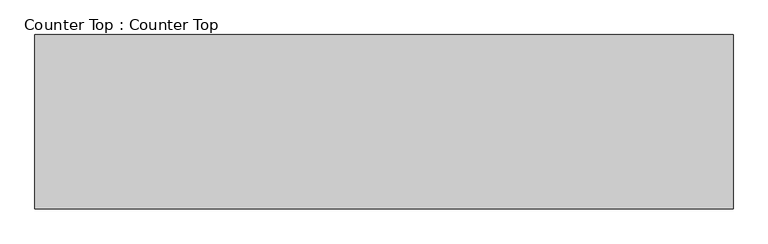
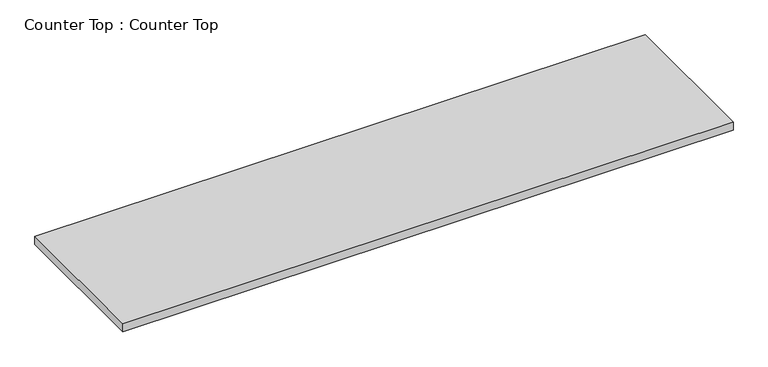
"""IFC4 building model written with IfcOpenShell, lengths in millimetres: furniture geometry, Counter Top : Counter Top."""

from ifc_helpers import new_model, si_unit, frame, origin, place, context, project, spatial, polyline, outline, extrude, source, transform, mapped, element, save


def counter_top_counter_top_cbd42a63(model_context):
    return source(origin(), model_context, "Body", "SweptSolid", [
        extrude(outline(polyline([(1844.7003264, 0.0), (1844.7003264, -600.0), (-555.2996736, -600.0), (-555.2996736, 0.0), (1844.7003264, 0.0)])), frame((0.0, 0.0, 868.0), z_axis=(0.0, 0.0, 1.0), x_axis=(1.0, 0.0, 0.0)), (0.0, 0.0, 1.0), 32.0),
    ])


if __name__ == "__main__":
    model = new_model("IFC4")
    model_context = context("Model", 3, world=origin())
    ifc_project = project(units=[si_unit("LENGTHUNIT", "METRE", prefix="MILLI")], contexts=[model_context])
    site = spatial("IfcSite", under=ifc_project)
    building = spatial("IfcBuilding", under=site)
    placement = place(None, origin())
    counter_top_counter_top_shape = counter_top_counter_top_cbd42a63(model_context)
    element("IfcFurniture", 1, ObjectType="Counter Top : Counter Top", at=placement, inside=building, context=model_context, shape_type="MappedRepresentation", body=[
        mapped(counter_top_counter_top_shape, transform((0.0, 0.0, 0.0), x_axis=(1.0, 0.0, 0.0), y_axis=(0.0, 1.0, 0.0), z_axis=(0.0, 0.0, 1.0))),
    ])
    save(model, "model.ifc")
